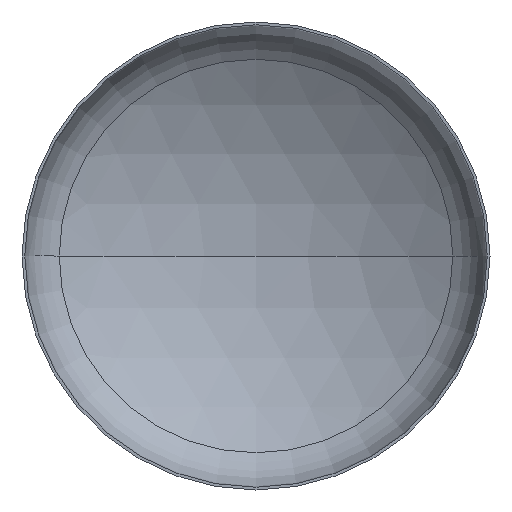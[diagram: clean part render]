
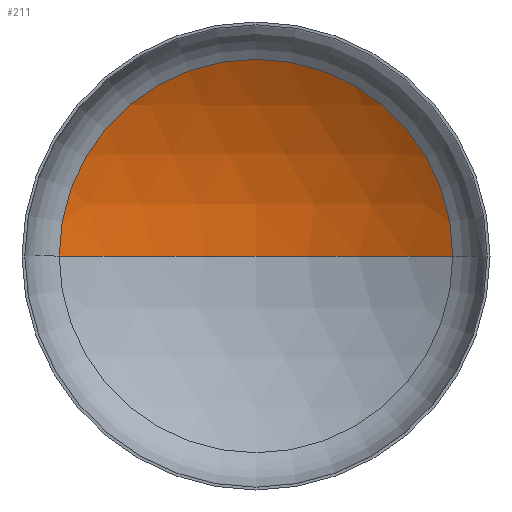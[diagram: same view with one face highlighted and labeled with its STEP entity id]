
A CAD part, front view. The second image highlights one B-rep face of the part: STEP entity #211.
In plain terms, the highlighted spherical face has radius 1600 mm.
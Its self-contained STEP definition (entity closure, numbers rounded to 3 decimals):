
#2 = VERTEX_POINT ( 'NONE', #238 ) ;
#12 = EDGE_LOOP ( 'NONE', ( #22, #19, #90 ) ) ;
#19 = ORIENTED_EDGE ( 'NONE', *, *, #267, .T. ) ;
#22 = ORIENTED_EDGE ( 'NONE', *, *, #272, .F. ) ;
#26 = VERTEX_POINT ( 'NONE', #300 ) ;
#77 = VERTEX_POINT ( 'NONE', #237 ) ;
#90 = ORIENTED_EDGE ( 'NONE', *, *, #265, .T. ) ;
#145 = AXIS2_PLACEMENT_3D ( 'NONE', #244, #242, #259 ) ;
#148 = CIRCLE ( 'NONE', #151, 1600. ) ;
#151 = AXIS2_PLACEMENT_3D ( 'NONE', #188, #201, #197 ) ;
#152 = AXIS2_PLACEMENT_3D ( 'NONE', #168, #198, #375 ) ;
#161 = SPHERICAL_SURFACE ( 'NONE', #193, 1600. ) ;
#168 = CARTESIAN_POINT ( 'NONE',  ( 0., 303.73, 0. ) ) ;
#188 = CARTESIAN_POINT ( 'NONE',  ( 0., -1057.459, 0. ) ) ;
#191 = CARTESIAN_POINT ( 'NONE',  ( 0., -1057.459, 0. ) ) ;
#193 = AXIS2_PLACEMENT_3D ( 'NONE', #191, #321, #342 ) ;
#197 = DIRECTION ( 'NONE',  ( -1., 0., 0. ) ) ;
#198 = DIRECTION ( 'NONE',  ( 0., -1., 0. ) ) ;
#201 = DIRECTION ( 'NONE',  ( 0., 0., -1. ) ) ;
#211 = ADVANCED_FACE ( 'NONE', ( #315 ), #161, .F. ) ;
#219 = CIRCLE ( 'NONE', #152, 840.93 ) ;
#237 = CARTESIAN_POINT ( 'NONE',  ( -840.93, 303.73, 0. ) ) ;
#238 = CARTESIAN_POINT ( 'NONE',  ( 0., 542.541, 0. ) ) ;
#242 = DIRECTION ( 'NONE',  ( 0., 0., 1. ) ) ;
#244 = CARTESIAN_POINT ( 'NONE',  ( 0., -1057.459, 0. ) ) ;
#259 = DIRECTION ( 'NONE',  ( 1., 0., 0. ) ) ;
#265 = EDGE_CURVE ( 'NONE', #26, #77, #219, .T. ) ;
#267 = EDGE_CURVE ( 'NONE', #2, #26, #148, .T. ) ;
#272 = EDGE_CURVE ( 'NONE', #2, #77, #351, .T. ) ;
#300 = CARTESIAN_POINT ( 'NONE',  ( 840.93, 303.73, 0. ) ) ;
#315 = FACE_OUTER_BOUND ( 'NONE', #12, .T. ) ;
#321 = DIRECTION ( 'NONE',  ( 0., 0., -1. ) ) ;
#342 = DIRECTION ( 'NONE',  ( -1., 0., 0. ) ) ;
#351 = CIRCLE ( 'NONE', #145, 1600. ) ;
#375 = DIRECTION ( 'NONE',  ( 1., 0., 0. ) ) ;
